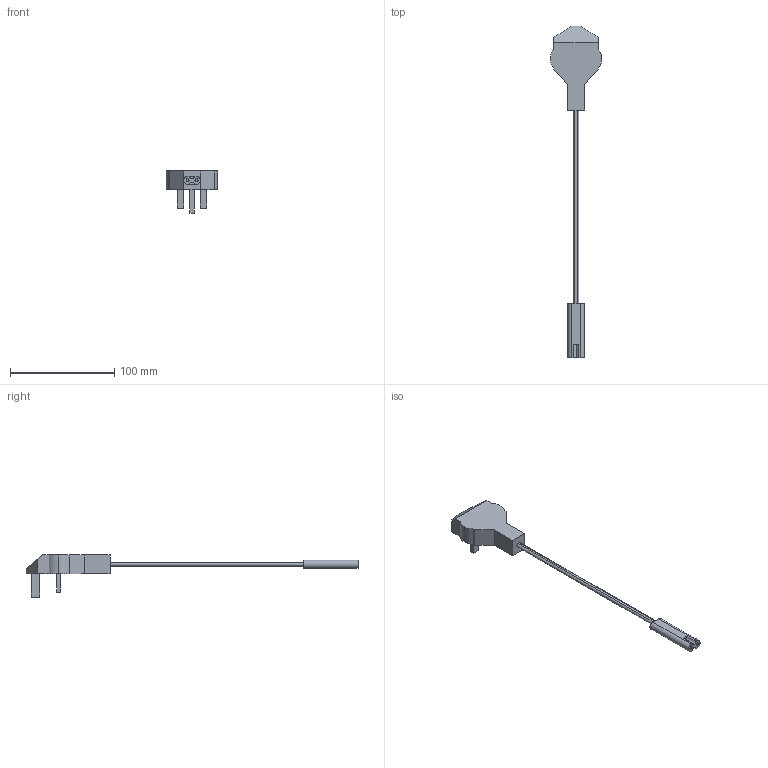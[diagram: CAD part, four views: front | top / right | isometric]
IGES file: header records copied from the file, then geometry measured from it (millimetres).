
Start section: Data from Parasolid IGES Translator 20.0.26, Copyright(c) 2006 Siemens P LM Software. All Rights Reserved.
Global section: file name: 9309945.igs; native system: By Siemens PLM Incorporated; preprocessor: XPlus GENERIC/IGES 20.0.26; author: Noname; organization: Noname; date: 20211203.152543; units: millimetre
Bounding box: 49.41 x 319.17 x 40.5 mm (x, y, z)
Surface area: 15370.8 mm2 (no closed solid volume)
Topology: 0 solids, 0 shells, 52 faces, 258 edges, 257 vertices
Faces by surface type: extrusion 40, revolution 12
